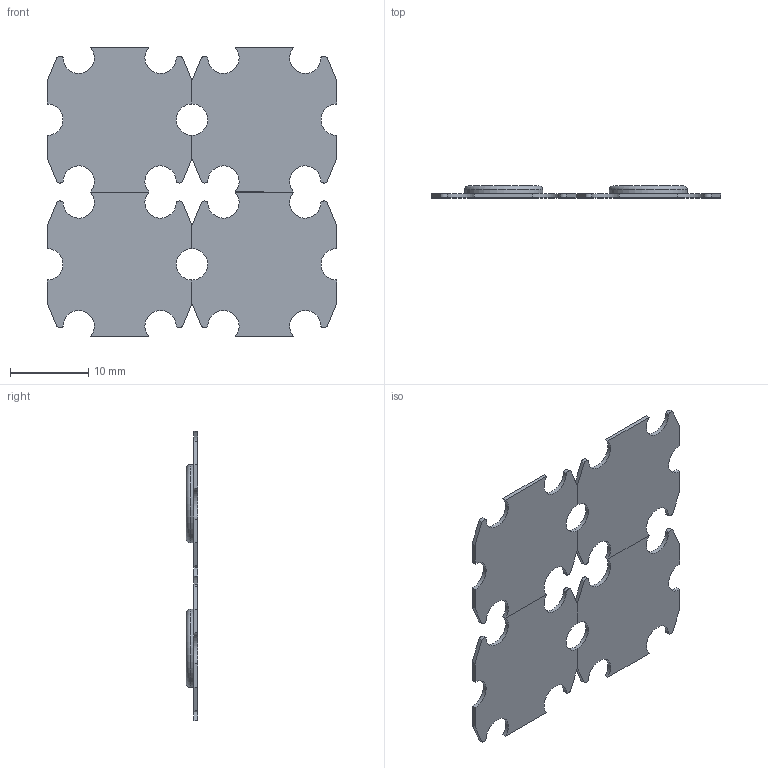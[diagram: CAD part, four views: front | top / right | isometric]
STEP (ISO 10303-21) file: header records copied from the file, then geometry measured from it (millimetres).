
FILE_DESCRIPTION(('FreeCAD Model'),'2;1');
FILE_NAME('Open CASCADE Shape Model','2023-05-06T18:44:57',('Author'),( ''),'Open CASCADE STEP processor 7.5','FreeCAD','Unknown');
FILE_SCHEMA(('AUTOMOTIVE_DESIGN { 1 0 10303 214 1 1 1 1 }'));
Length unit declared in the file: millimetre
Products named in the file (1): LED 2B5C
Bounding box: 37 x 1.5 x 37 mm (x, y, z)
Volume: 840.7 mm3; surface area: 2405 mm2
Topology: 4 solids, 4 shells, 100 faces, 262 edges, 174 vertices
Faces by surface type: plane 52, cylinder 44, torus 4
Full cylindrical faces by diameter (mm): 10 x4
Entity records: 3820 total; most frequent: DIRECTION 546, CARTESIAN_POINT 525, ORIENTED_EDGE 504, EDGE_CURVE 252, AXIS2_PLACEMENT_3D 193, VERTEX_POINT 172, VECTOR 160, LINE 160
